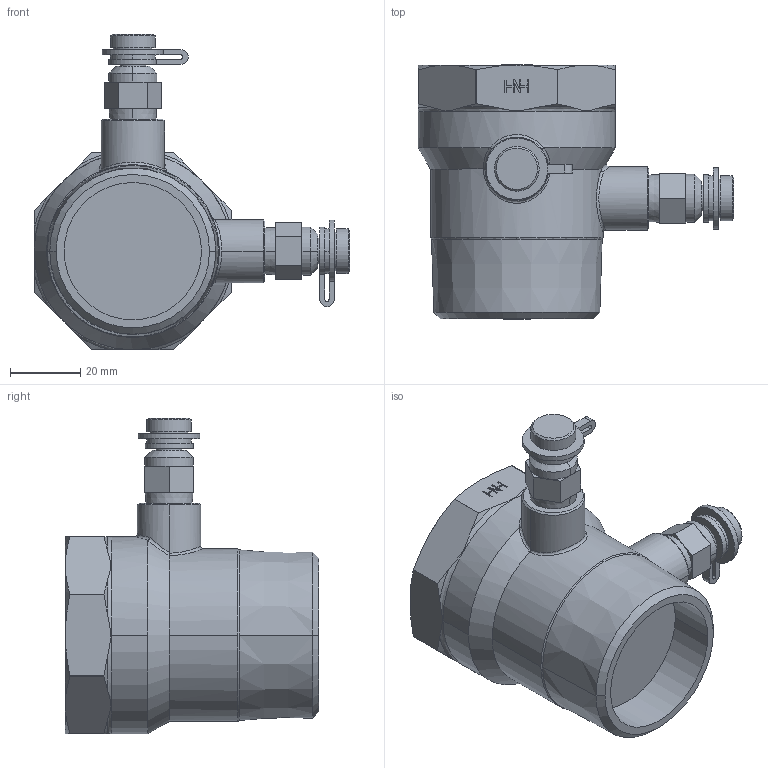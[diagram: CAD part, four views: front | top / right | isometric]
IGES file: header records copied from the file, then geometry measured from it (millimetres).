
Global section: file name: No Iges File Name specified; native system: AutoDesk Inventor R12.0; preprocessor: AutoDesk Inventor Iges Exporter R12.0; date: 20110112.140459; units: millimetre
Bounding box: 89.61 x 72 x 89.61 mm (x, y, z)
Volume: 133265.5 mm3; surface area: 23932.5 mm2
Topology: 1 solids, 1 shells, 186 faces, 469 edges, 302 vertices
Faces by surface type: plane 89, cylinder 40, cone 37, bspline 16, revolution 4
